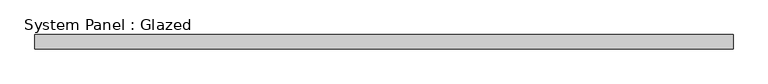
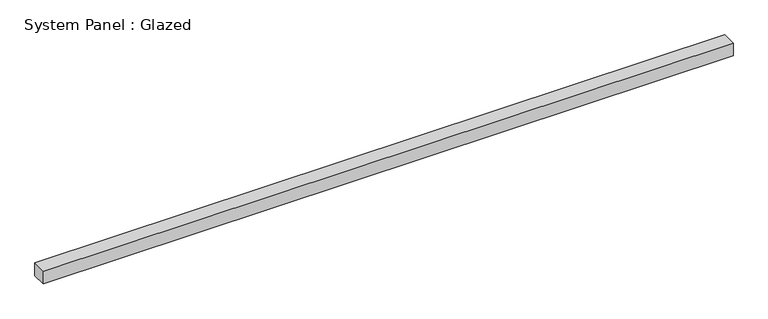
"""IFC4 building model written with IfcOpenShell, lengths in millimetres: plate geometry, System Panel : Glazed."""

from ifc_helpers import new_model, si_unit, origin, origin_with_axes, place, context, project, spatial, polyline, outline, extrude, source, transform, mapped, element, save


def system_panel_glazed_7daea989(model_context):
    return source(origin(), model_context, "Body", "SweptSolid", [
        extrude(outline(polyline([(612.3621495, -44.45), (-612.3621495, -44.45), (-612.3621495, -19.05), (612.3621495, -19.05), (612.3621495, -44.45)])), origin_with_axes(), (0.0, 0.0, 1.0), 24.0243608),
    ])


if __name__ == "__main__":
    model = new_model("IFC4")
    model_context = context("Model", 3, world=origin())
    ifc_project = project(units=[si_unit("LENGTHUNIT", "METRE", prefix="MILLI")], contexts=[model_context])
    site = spatial("IfcSite", under=ifc_project)
    building = spatial("IfcBuilding", under=site)
    placement = place(None, origin())
    system_panel_glazed_shape = system_panel_glazed_7daea989(model_context)
    element("IfcPlate", 1, ObjectType="System Panel : Glazed", at=placement, inside=building, context=model_context, shape_type="MappedRepresentation", body=[
        mapped(system_panel_glazed_shape, transform((0.0, 0.0, 0.0), x_axis=(1.0, 0.0, 0.0), y_axis=(0.0, 1.0, 0.0), z_axis=(0.0, 0.0, 1.0))),
    ])
    save(model, "model.ifc")
